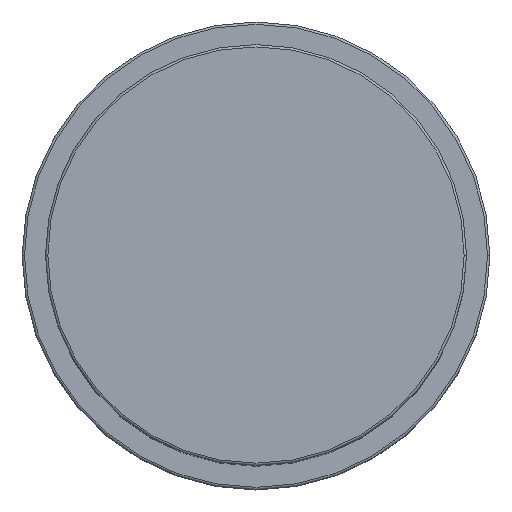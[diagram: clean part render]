
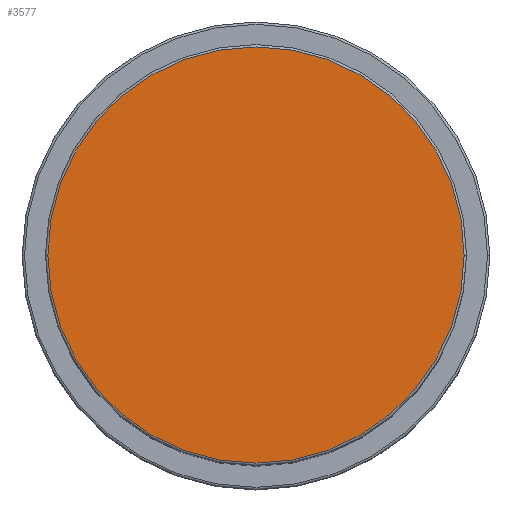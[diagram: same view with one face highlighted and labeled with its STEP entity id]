
A CAD part, top view. The second image highlights one B-rep face of the part: STEP entity #3577.
In plain terms, the highlighted planar face has unit normal (0, 0, 1).
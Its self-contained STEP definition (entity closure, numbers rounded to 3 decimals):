
#462 = EDGE_CURVE ( 'NONE', #1502, #7011, #3552, .T. ) ;
#929 = DIRECTION ( 'NONE',  ( 0., 0., 1. ) ) ;
#1383 = DIRECTION ( 'NONE',  ( 1., 0., 0. ) ) ;
#1502 = VERTEX_POINT ( 'NONE', #6920 ) ;
#1562 = AXIS2_PLACEMENT_3D ( 'NONE', #3169, #929, #2060 ) ;
#1923 = ORIENTED_EDGE ( 'NONE', *, *, #2218, .T. ) ;
#2060 = DIRECTION ( 'NONE',  ( 1., 0., 0. ) ) ;
#2106 = AXIS2_PLACEMENT_3D ( 'NONE', #4673, #4721, #1383 ) ;
#2218 = EDGE_CURVE ( 'NONE', #7011, #1502, #7125, .T. ) ;
#2476 = PLANE ( 'NONE',  #2106 ) ;
#3137 = EDGE_LOOP ( 'NONE', ( #4946, #1923 ) ) ;
#3169 = CARTESIAN_POINT ( 'NONE',  ( 0., 0., 117. ) ) ;
#3552 = CIRCLE ( 'NONE', #1562, 44.5 ) ;
#3577 = ADVANCED_FACE ( 'NONE', ( #5880 ), #2476, .T. ) ;
#4061 = DIRECTION ( 'NONE',  ( 0., 0., 1. ) ) ;
#4673 = CARTESIAN_POINT ( 'NONE',  ( 0., 0., 117. ) ) ;
#4721 = DIRECTION ( 'NONE',  ( 0., 0., 1. ) ) ;
#4820 = AXIS2_PLACEMENT_3D ( 'NONE', #5154, #4061, #6897 ) ;
#4821 = CARTESIAN_POINT ( 'NONE',  ( -44.5, 0., 117. ) ) ;
#4946 = ORIENTED_EDGE ( 'NONE', *, *, #462, .T. ) ;
#5154 = CARTESIAN_POINT ( 'NONE',  ( 0., 0., 117. ) ) ;
#5880 = FACE_OUTER_BOUND ( 'NONE', #3137, .T. ) ;
#6897 = DIRECTION ( 'NONE',  ( 1., 0., 0. ) ) ;
#6920 = CARTESIAN_POINT ( 'NONE',  ( 44.5, 0., 117. ) ) ;
#7011 = VERTEX_POINT ( 'NONE', #4821 ) ;
#7125 = CIRCLE ( 'NONE', #4820, 44.5 ) ;
